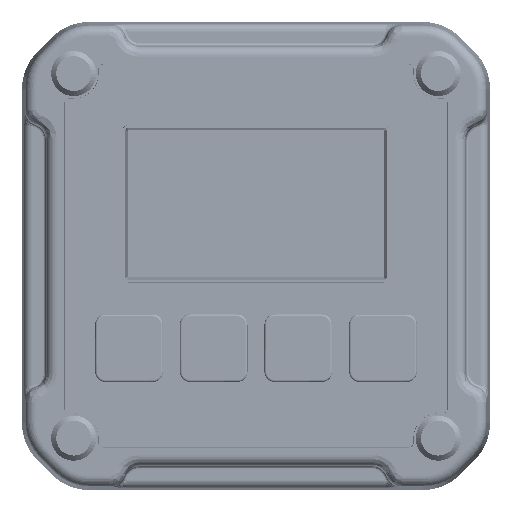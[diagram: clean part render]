
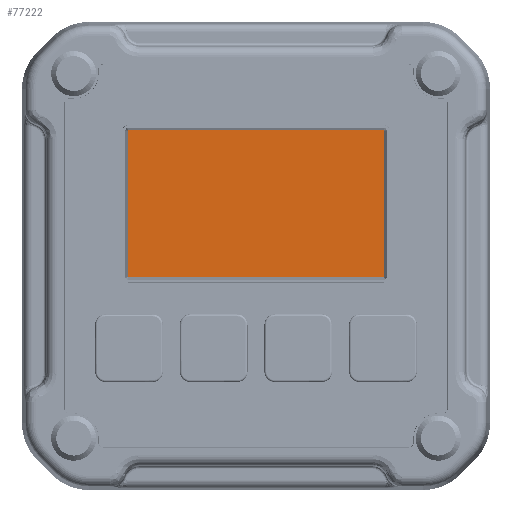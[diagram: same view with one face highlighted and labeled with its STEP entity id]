
A CAD part, top view. The second image highlights one B-rep face of the part: STEP entity #77222.
In plain terms, the highlighted planar face has unit normal (0, 0, 1).
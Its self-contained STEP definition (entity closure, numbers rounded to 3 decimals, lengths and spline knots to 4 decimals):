
#2893=PLANE('',#82694);
#5912=FACE_OUTER_BOUND('',#10618,.T.);
#10618=EDGE_LOOP('',(#54827,#54828,#54829,#54830,#54831,#54832,#54833,#54834));
#15360=CIRCLE('',#82680,0.0036);
#15362=CIRCLE('',#82684,0.0036);
#15364=CIRCLE('',#82688,0.0036);
#15366=CIRCLE('',#82692,0.0036);
#22600=LINE('',#122398,#27083);
#22605=LINE('',#122412,#27088);
#22609=LINE('',#122424,#27092);
#22613=LINE('',#122436,#27096);
#27083=VECTOR('',#91683,0.3937);
#27088=VECTOR('',#91696,0.3937);
#27092=VECTOR('',#91708,0.3937);
#27096=VECTOR('',#91720,0.3937);
#32002=VERTEX_POINT('',#122396);
#32003=VERTEX_POINT('',#122397);
#32006=VERTEX_POINT('',#122405);
#32008=VERTEX_POINT('',#122411);
#32010=VERTEX_POINT('',#122417);
#32012=VERTEX_POINT('',#122423);
#32014=VERTEX_POINT('',#122429);
#32016=VERTEX_POINT('',#122435);
#40663=EDGE_CURVE('',#32002,#32003,#22600,.T.);
#40667=EDGE_CURVE('',#32003,#32006,#15360,.T.);
#40670=EDGE_CURVE('',#32006,#32008,#22605,.T.);
#40673=EDGE_CURVE('',#32008,#32010,#15362,.T.);
#40676=EDGE_CURVE('',#32010,#32012,#22609,.T.);
#40679=EDGE_CURVE('',#32012,#32014,#15364,.T.);
#40682=EDGE_CURVE('',#32014,#32016,#22613,.T.);
#40685=EDGE_CURVE('',#32016,#32002,#15366,.T.);
#54827=ORIENTED_EDGE('',*,*,#40663,.T.);
#54828=ORIENTED_EDGE('',*,*,#40667,.T.);
#54829=ORIENTED_EDGE('',*,*,#40670,.T.);
#54830=ORIENTED_EDGE('',*,*,#40673,.T.);
#54831=ORIENTED_EDGE('',*,*,#40676,.T.);
#54832=ORIENTED_EDGE('',*,*,#40679,.T.);
#54833=ORIENTED_EDGE('',*,*,#40682,.T.);
#54834=ORIENTED_EDGE('',*,*,#40685,.T.);
#77222=ADVANCED_FACE('',(#5912),#2893,.T.);
#82680=AXIS2_PLACEMENT_3D('',#122406,#91689,#91690);
#82684=AXIS2_PLACEMENT_3D('',#122418,#91701,#91702);
#82688=AXIS2_PLACEMENT_3D('',#122430,#91713,#91714);
#82692=AXIS2_PLACEMENT_3D('',#122441,#91725,#91726);
#82694=AXIS2_PLACEMENT_3D('',#122443,#91729,#91730);
#91683=DIRECTION('',(0.,-1.,0.));
#91689=DIRECTION('center_axis',(0.,0.,1.));
#91690=DIRECTION('ref_axis',(1.,0.,0.));
#91696=DIRECTION('',(1.,0.,0.));
#91701=DIRECTION('center_axis',(0.,0.,1.));
#91702=DIRECTION('ref_axis',(0.,1.,0.));
#91708=DIRECTION('',(0.,1.,0.));
#91713=DIRECTION('center_axis',(0.,0.,1.));
#91714=DIRECTION('ref_axis',(-1.,0.,0.));
#91720=DIRECTION('',(-1.,0.,0.));
#91725=DIRECTION('center_axis',(0.,0.,1.));
#91726=DIRECTION('ref_axis',(0.,-1.,0.));
#91729=DIRECTION('center_axis',(0.,0.,1.));
#91730=DIRECTION('ref_axis',(1.,0.,0.));
#122396=CARTESIAN_POINT('',(-2.4419,-1.8156,0.1602));
#122397=CARTESIAN_POINT('',(-2.4419,-3.2227,0.1602));
#122398=CARTESIAN_POINT('',(-2.4419,-3.2227,0.1602));
#122405=CARTESIAN_POINT('',(-2.4383,-3.2263,0.1602));
#122406=CARTESIAN_POINT('Origin',(-2.4383,-3.2227,0.1602));
#122411=CARTESIAN_POINT('',(0.0207,-3.2263,0.1602));
#122412=CARTESIAN_POINT('',(0.0207,-3.2263,0.1602));
#122417=CARTESIAN_POINT('',(0.0243,-3.2227,0.1602));
#122418=CARTESIAN_POINT('Origin',(0.0207,-3.2227,
0.1602));
#122423=CARTESIAN_POINT('',(0.0243,-1.8156,0.1602));
#122424=CARTESIAN_POINT('',(0.0243,-1.8156,0.1602));
#122429=CARTESIAN_POINT('',(0.0207,-1.8121,0.1602));
#122430=CARTESIAN_POINT('Origin',(0.0207,-1.8156,
0.1602));
#122435=CARTESIAN_POINT('',(-2.4383,-1.8121,0.1602));
#122436=CARTESIAN_POINT('',(-2.4383,-1.8121,0.1602));
#122441=CARTESIAN_POINT('Origin',(-2.4383,-1.8156,0.1602));
#122443=CARTESIAN_POINT('Origin',(-1.2088,-2.5192,0.1602));
